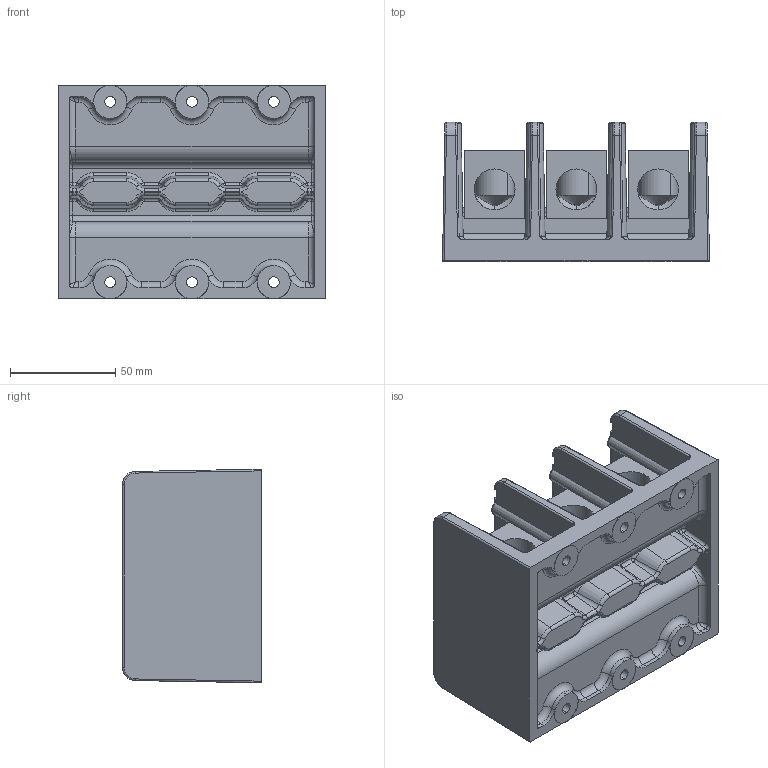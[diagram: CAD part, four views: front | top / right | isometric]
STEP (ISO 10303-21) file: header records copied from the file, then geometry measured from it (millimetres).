
FILE_DESCRIPTION (( 'STEP AP214' ), '1' );
FILE_NAME ('1433553.STEP', '2013-01-15T14:37:01', ( 'RBC' ), ( 'RBC' ), 'SwSTEP 2.0', 'SolidWorks 2011', '' );
FILE_SCHEMA (( 'AUTOMOTIVE_DESIGN' ));
Length unit declared in the file: inch
Products named in the file (6): 96809XX_Hex no thd; 1433553; 98125XX_9812547; 98071XX; 9812103; 9799231
Assembly tree (41 placements, depth 2):
  1433553
    98071XX  x4
    98125XX_9812547  x8
    96809XX_Hex no thd  x24
    9799231  x4
    9812103
Bounding box: 127 x 66.19 x 101.7 mm (x, y, z)
Volume: 381849.3 mm3; surface area: 168011.1 mm2
Topology: 41 solids, 41 shells, 2212 faces, 5662 edges, 3502 vertices
Faces by surface type: plane 1014, cylinder 610, cone 328, torus 124, sphere 76, bspline 60
Entity records: 29709 total; most frequent: CARTESIAN_POINT 8530, DIRECTION 4477, ORIENTED_EDGE 4362, EDGE_CURVE 2181, AXIS2_PLACEMENT_3D 1741, VERTEX_POINT 1324, VECTOR 995, LINE 995
